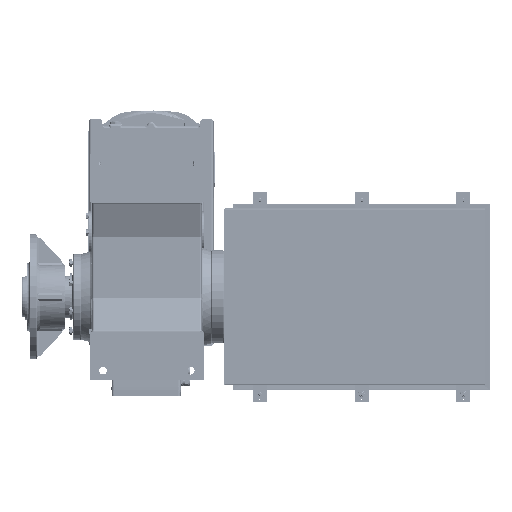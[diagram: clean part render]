
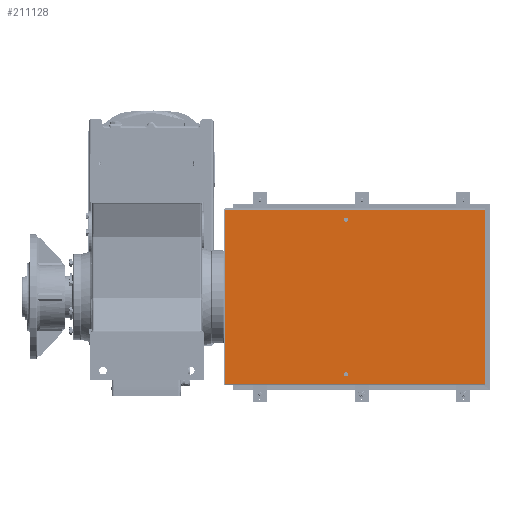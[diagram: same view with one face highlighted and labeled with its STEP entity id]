
A CAD part, front view. The second image highlights one B-rep face of the part: STEP entity #211128.
In plain terms, the highlighted planar face has unit normal (0, -1, 0).
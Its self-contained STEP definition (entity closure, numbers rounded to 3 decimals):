
#8036=FACE_BOUND('',#33235,.T.);
#8037=FACE_BOUND('',#33236,.T.);
#20469=FACE_OUTER_BOUND('',#33234,.T.);
#33234=EDGE_LOOP('',(#165749,#165750,#165751,#165752));
#33235=EDGE_LOOP('',(#165753));
#33236=EDGE_LOOP('',(#165754));
#47891=LINE('',#358194,#65095);
#47901=LINE('',#358220,#65105);
#47910=LINE('',#358245,#65114);
#47916=LINE('',#358258,#65120);
#65095=VECTOR('',#267845,496.032);
#65105=VECTOR('',#267865,740.);
#65114=VECTOR('',#267888,496.032);
#65120=VECTOR('',#267898,740.);
#77904=CIRCLE('',#227578,6.);
#77905=CIRCLE('',#227579,6.);
#91887=VERTEX_POINT('',#358191);
#91888=VERTEX_POINT('',#358193);
#91899=VERTEX_POINT('',#358219);
#91908=VERTEX_POINT('',#358244);
#91914=VERTEX_POINT('',#358259);
#91915=VERTEX_POINT('',#358261);
#117606=EDGE_CURVE('',#91887,#91888,#47891,.T.);
#117619=EDGE_CURVE('',#91899,#91888,#47901,.T.);
#117633=EDGE_CURVE('',#91899,#91908,#47910,.T.);
#117640=EDGE_CURVE('',#91887,#91908,#47916,.T.);
#117641=EDGE_CURVE('',#91914,#91914,#77904,.T.);
#117642=EDGE_CURVE('',#91915,#91915,#77905,.T.);
#165749=ORIENTED_EDGE('',*,*,#117640,.T.);
#165750=ORIENTED_EDGE('',*,*,#117633,.F.);
#165751=ORIENTED_EDGE('',*,*,#117619,.T.);
#165752=ORIENTED_EDGE('',*,*,#117606,.F.);
#165753=ORIENTED_EDGE('',*,*,#117641,.T.);
#165754=ORIENTED_EDGE('',*,*,#117642,.T.);
#189071=PLANE('',#227577);
#211128=ADVANCED_FACE('',(#20469,#8036,#8037),#189071,.F.);
#227577=AXIS2_PLACEMENT_3D('',#358257,#267896,#267897);
#227578=AXIS2_PLACEMENT_3D('',#358260,#267899,#267900);
#227579=AXIS2_PLACEMENT_3D('',#358262,#267901,#267902);
#267845=DIRECTION('',(0.,0.,-1.));
#267865=DIRECTION('',(1.,0.,0.));
#267888=DIRECTION('',(0.,0.,1.));
#267896=DIRECTION('center_axis',(0.,1.,0.));
#267897=DIRECTION('ref_axis',(-1.,0.,0.));
#267898=DIRECTION('',(-1.,0.,0.));
#267899=DIRECTION('center_axis',(0.,1.,0.));
#267900=DIRECTION('ref_axis',(1.,0.,0.));
#267901=DIRECTION('center_axis',(0.,1.,0.));
#267902=DIRECTION('ref_axis',(1.,0.,0.));
#358191=CARTESIAN_POINT('',(1002.51,-270.62,101.551));
#358193=CARTESIAN_POINT('',(1002.51,-270.62,-394.481));
#358194=CARTESIAN_POINT('',(1002.51,-270.62,103.535));
#358219=CARTESIAN_POINT('',(262.51,-270.62,-394.481));
#358220=CARTESIAN_POINT('',(447.51,-270.62,-394.481));
#358244=CARTESIAN_POINT('',(262.51,-270.62,101.551));
#358245=CARTESIAN_POINT('',(262.51,-270.62,-396.465));
#358257=CARTESIAN_POINT('Origin',(632.51,-270.62,-146.465));
#358258=CARTESIAN_POINT('',(817.51,-270.62,101.551));
#358259=CARTESIAN_POINT('',(613.51,-270.62,-366.465));
#358260=CARTESIAN_POINT('Origin',(607.51,-270.62,-366.465));
#358261=CARTESIAN_POINT('',(613.51,-270.62,73.535));
#358262=CARTESIAN_POINT('Origin',(607.51,-270.62,73.535));
